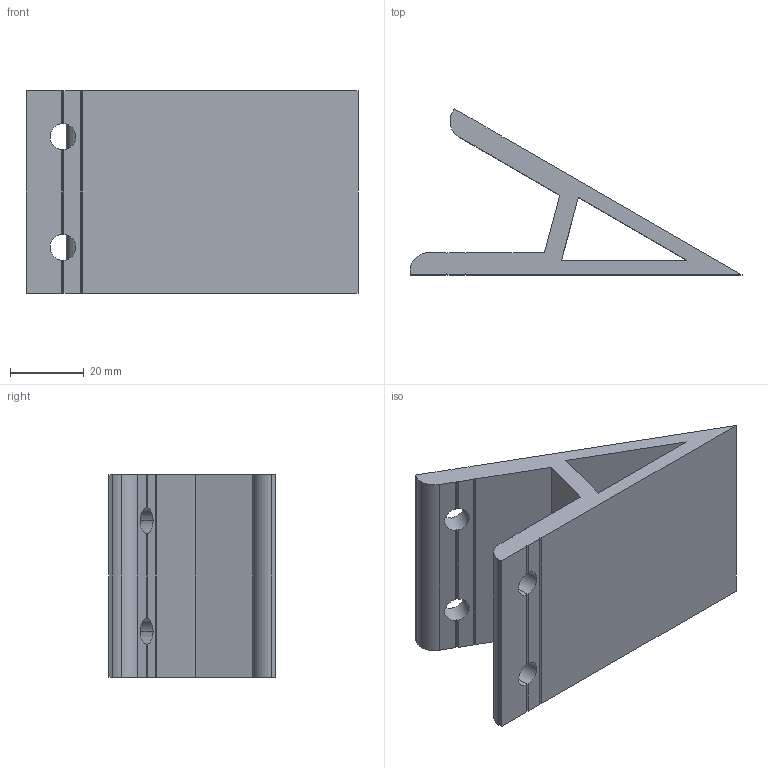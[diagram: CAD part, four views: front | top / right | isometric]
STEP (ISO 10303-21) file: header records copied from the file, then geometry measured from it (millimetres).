
FILE_DESCRIPTION (( 'STEP AP203' ), '1' );
FILE_NAME ('DALV3055-6.STEP', '2019-04-24T09:00:38', ( '' ), ( '' ), 'SwSTEP 2.0', 'SolidWorks 2012', '' );
FILE_SCHEMA (( 'CONFIG_CONTROL_DESIGN' ));
Length unit declared in the file: millimetre
Products named in the file (1): DALV3055-6
Bounding box: 90 x 45 x 55 mm (x, y, z)
Volume: 47931.7 mm3; surface area: 22017.3 mm2
Topology: 1 solids, 1 shells, 63 faces, 199 edges, 130 vertices
Faces by surface type: plane 52, cylinder 11
Entity records: 2276 total; most frequent: CARTESIAN_POINT 489, ORIENTED_EDGE 398, DIRECTION 325, EDGE_CURVE 199, VECTOR 137, LINE 137, VERTEX_POINT 130, AXIS2_PLACEMENT_3D 94
